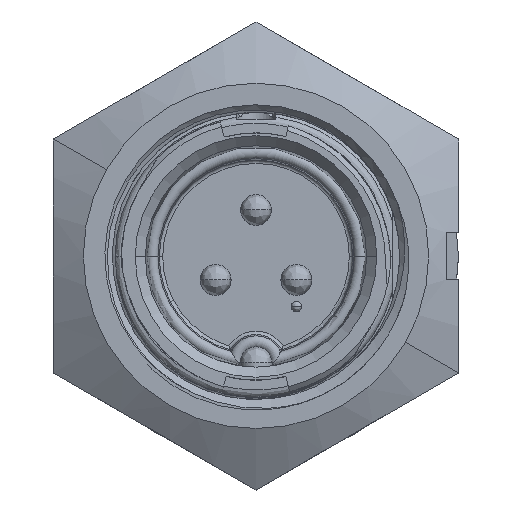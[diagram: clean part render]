
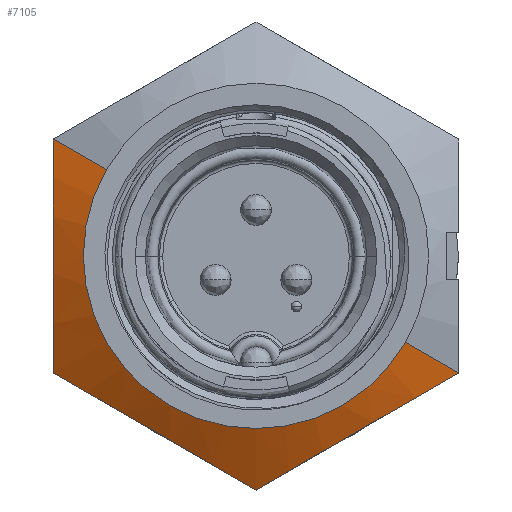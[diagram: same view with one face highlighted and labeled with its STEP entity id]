
A CAD part, top view. The second image highlights one B-rep face of the part: STEP entity #7105.
In plain terms, the highlighted conical face has half-angle 60 degrees and reference radius 11.915 mm.
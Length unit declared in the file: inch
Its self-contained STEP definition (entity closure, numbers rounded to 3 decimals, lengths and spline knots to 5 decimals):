
#39 = CARTESIAN_POINT ( 'NONE',  ( -0.03283, -0.45014, 1.08094 ) ) ;
#146 = CARTESIAN_POINT ( 'NONE',  ( 0.03317, -0.44995, 1.08106 ) ) ;
#243 = CARTESIAN_POINT ( 'NONE',  ( 0.23736, -0.33206, 1.10545 ) ) ;
#606 = B_SPLINE_CURVE_WITH_KNOTS ( 'NONE', 3,
 ( #25100, #11185, #15891, #1879, #18211, #4228, #20541, #6602, #22885, #8961, #25203, #11300 ),
 .UNSPECIFIED., .F., .F.,
 ( 4, 2, 2, 2, 2, 4 ),
 ( 0., 0.00301, 0.00602, 0.00752, 0.00903, 0.01203 ),
 .UNSPECIFIED. ) ;
#671 = DIRECTION ( 'NONE',  ( -0.866, 0.5, 0. ) ) ;
#1169 = VERTEX_POINT ( 'NONE', #26414 ) ;
#1426 = VECTOR ( 'NONE', #9448, 39.37008 ) ;
#1879 = CARTESIAN_POINT ( 'NONE',  ( -0.40625, 0.07972, 1.10279 ) ) ;
#2545 = VERTEX_POINT ( 'NONE', #30143 ) ;
#2590 = CARTESIAN_POINT ( 'NONE',  ( 0.28872, -0.3024, 1.09969 ) ) ;
#2805 = LINE ( 'NONE', #21026, #1426 ) ;
#2904 = FACE_OUTER_BOUND ( 'NONE', #9594, .T. ) ;
#3243 = VERTEX_POINT ( 'NONE', #6852 ) ;
#3364 = CONICAL_SURFACE ( 'NONE', #19315, 0.4691, 1.047 ) ;
#3894 = EDGE_CURVE ( 'NONE', #7301, #3243, #5537, .T. ) ;
#3935 = AXIS2_PLACEMENT_3D ( 'NONE', #28157, #14694, #671 ) ;
#4228 = CARTESIAN_POINT ( 'NONE',  ( -0.40625, -0.01949, 1.1063 ) ) ;
#4943 = CARTESIAN_POINT ( 'NONE',  ( 0.37304, -0.25372, 1.08107 ) ) ;
#5537 = B_SPLINE_CURVE_WITH_KNOTS ( 'NONE', 3,
 ( #16309, #18614, #20938, #7018, #23292, #9367, #25605, #11706, #27911, #14069, #39, #16401 ),
 .UNSPECIFIED., .F., .F.,
 ( 4, 2, 2, 2, 2, 4 ),
 ( 0.01049, 0.01351, 0.01652, 0.01803, 0.01953, 0.02255 ),
 .UNSPECIFIED. ) ;
#6602 = CARTESIAN_POINT ( 'NONE',  ( -0.40625, -0.07916, 1.10214 ) ) ;
#6852 = CARTESIAN_POINT ( 'NONE',  ( 0., -0.4691, 1.07 ) ) ;
#6901 = EDGE_CURVE ( 'NONE', #3243, #15366, #7079, .T. ) ;
#7018 = CARTESIAN_POINT ( 'NONE',  ( -0.2715, -0.31234, 1.10289 ) ) ;
#7079 = B_SPLINE_CURVE_WITH_KNOTS ( 'NONE', 3,
 ( #21140, #146, #25801, #11908, #28116, #14266, #243, #16599, #2590, #18919, #4943, #21238 ),
 .UNSPECIFIED., .F., .F.,
 ( 4, 2, 2, 2, 2, 4 ),
 ( 0., 0.00301, 0.00602, 0.00752, 0.00903, 0.01203 ),
 .UNSPECIFIED. ) ;
#7105 = ADVANCED_FACE ( 'NONE', ( #2904 ), #3364, .T. ) ;
#7301 = VERTEX_POINT ( 'NONE', #10522 ) ;
#8961 = CARTESIAN_POINT ( 'NONE',  ( -0.40625, -0.15754, 1.0902 ) ) ;
#9076 = CARTESIAN_POINT ( 'NONE',  ( 0.40625, -0.23455, 1.07 ) ) ;
#9367 = CARTESIAN_POINT ( 'NONE',  ( -0.18591, -0.36176, 1.10628 ) ) ;
#9448 = DIRECTION ( 'NONE',  ( 0.75, -0.433, -0.5 ) ) ;
#9594 = EDGE_LOOP ( 'NONE', ( #29518, #25329, #21207, #21200, #17098, #13138 ) ) ;
#10522 = CARTESIAN_POINT ( 'NONE',  ( -0.40625, -0.23455, 1.07 ) ) ;
#11185 = CARTESIAN_POINT ( 'NONE',  ( -0.40625, 0.19625, 1.08106 ) ) ;
#11300 = CARTESIAN_POINT ( 'NONE',  ( -0.40625, -0.23455, 1.07 ) ) ;
#11706 = CARTESIAN_POINT ( 'NONE',  ( -0.13417, -0.39163, 1.10209 ) ) ;
#11908 = CARTESIAN_POINT ( 'NONE',  ( 0.13409, -0.39168, 1.10279 ) ) ;
#13138 = ORIENTED_EDGE ( 'NONE', *, *, #6901, .T. ) ;
#14069 = CARTESIAN_POINT ( 'NONE',  ( -0.0661, -0.43093, 1.09006 ) ) ;
#14266 = CARTESIAN_POINT ( 'NONE',  ( 0.22001, -0.34208, 1.1063 ) ) ;
#14694 = DIRECTION ( 'NONE',  ( 0., 0., -1. ) ) ;
#14879 = CARTESIAN_POINT ( 'NONE',  ( -0.40625, 0.23455, 1.07 ) ) ;
#15366 = VERTEX_POINT ( 'NONE', #9076 ) ;
#15891 = CARTESIAN_POINT ( 'NONE',  ( -0.40625, 0.15767, 1.09017 ) ) ;
#16309 = CARTESIAN_POINT ( 'NONE',  ( -0.40625, -0.23455, 1.07 ) ) ;
#16401 = CARTESIAN_POINT ( 'NONE',  ( 0., -0.4691, 1.07 ) ) ;
#16599 = CARTESIAN_POINT ( 'NONE',  ( 0.27168, -0.31224, 1.10214 ) ) ;
#17080 = EDGE_CURVE ( 'NONE', #2545, #7301, #606, .T. ) ;
#17098 = ORIENTED_EDGE ( 'NONE', *, *, #3894, .T. ) ;
#17164 = DIRECTION ( 'NONE',  ( -0.866, 0.5, 0. ) ) ;
#18211 = CARTESIAN_POINT ( 'NONE',  ( -0.40625, 0.04033, 1.10626 ) ) ;
#18614 = CARTESIAN_POINT ( 'NONE',  ( -0.37322, -0.25362, 1.08101 ) ) ;
#18839 = EDGE_CURVE ( 'NONE', #29223, #1169, #28816, .T. ) ;
#18919 = CARTESIAN_POINT ( 'NONE',  ( 0.33956, -0.27305, 1.0902 ) ) ;
#18966 = CARTESIAN_POINT ( 'NONE',  ( 0.29975, -0.17306, 1.141 ) ) ;
#19315 = AXIS2_PLACEMENT_3D ( 'NONE', #24048, #19495, #17164 ) ;
#19443 = DIRECTION ( 'NONE',  ( -0.75, 0.433, -0.5 ) ) ;
#19495 = DIRECTION ( 'NONE',  ( 0., 0., -1. ) ) ;
#19634 = EDGE_CURVE ( 'NONE', #29223, #15366, #2805, .T. ) ;
#20541 = CARTESIAN_POINT ( 'NONE',  ( -0.40625, -0.03953, 1.10545 ) ) ;
#20938 = CARTESIAN_POINT ( 'NONE',  ( -0.33937, -0.27316, 1.09025 ) ) ;
#21026 = CARTESIAN_POINT ( 'NONE',  ( 0.40625, -0.23455, 1.07 ) ) ;
#21140 = CARTESIAN_POINT ( 'NONE',  ( 0., -0.4691, 1.07 ) ) ;
#21200 = ORIENTED_EDGE ( 'NONE', *, *, #17080, .T. ) ;
#21207 = ORIENTED_EDGE ( 'NONE', *, *, #23946, .T. ) ;
#21238 = CARTESIAN_POINT ( 'NONE',  ( 0.40625, -0.23455, 1.07 ) ) ;
#22885 = CARTESIAN_POINT ( 'NONE',  ( -0.40625, -0.09884, 1.09969 ) ) ;
#22978 = LINE ( 'NONE', #14879, #29887 ) ;
#23292 = CARTESIAN_POINT ( 'NONE',  ( -0.23739, -0.33204, 1.10629 ) ) ;
#23946 = EDGE_CURVE ( 'NONE', #1169, #2545, #22978, .T. ) ;
#24048 = CARTESIAN_POINT ( 'NONE',  ( 0., 0., 1.07 ) ) ;
#25100 = CARTESIAN_POINT ( 'NONE',  ( -0.40625, 0.23455, 1.07 ) ) ;
#25203 = CARTESIAN_POINT ( 'NONE',  ( -0.40625, -0.1962, 1.08107 ) ) ;
#25329 = ORIENTED_EDGE ( 'NONE', *, *, #18839, .T. ) ;
#25605 = CARTESIAN_POINT ( 'NONE',  ( -0.1687, -0.3717, 1.10544 ) ) ;
#25801 = CARTESIAN_POINT ( 'NONE',  ( 0.06657, -0.43066, 1.09017 ) ) ;
#26414 = CARTESIAN_POINT ( 'NONE',  ( -0.29975, 0.17306, 1.141 ) ) ;
#27911 = CARTESIAN_POINT ( 'NONE',  ( -0.11699, -0.40155, 1.0996 ) ) ;
#28116 = CARTESIAN_POINT ( 'NONE',  ( 0.1682, -0.37199, 1.10626 ) ) ;
#28157 = CARTESIAN_POINT ( 'NONE',  ( 0., 0., 1.141 ) ) ;
#28816 = CIRCLE ( 'NONE', #3935, 0.34612 ) ;
#29223 = VERTEX_POINT ( 'NONE', #18966 ) ;
#29518 = ORIENTED_EDGE ( 'NONE', *, *, #19634, .F. ) ;
#29887 = VECTOR ( 'NONE', #19443, 39.37008 ) ;
#30143 = CARTESIAN_POINT ( 'NONE',  ( -0.40625, 0.23455, 1.07 ) ) ;
